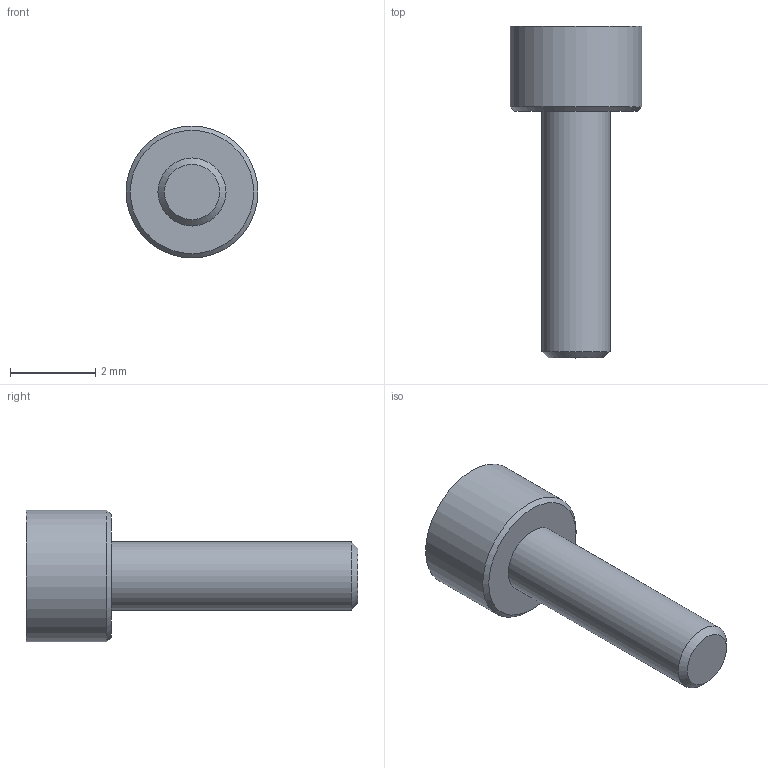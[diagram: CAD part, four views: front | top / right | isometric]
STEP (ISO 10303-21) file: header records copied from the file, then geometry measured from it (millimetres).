
FILE_DESCRIPTION (( 'STEP AP214' ), '1' );
FILE_NAME ('SK-6.STEP', '2018-10-09T18:04:27', ( '' ), ( '' ), 'SwSTEP 2.0', 'SolidWorks 2017', '' );
FILE_SCHEMA (( 'AUTOMOTIVE_DESIGN' ));
Length unit declared in the file: millimetre
Products named in the file (1): SK-6
Bounding box: 3.1 x 7.8 x 3.1 mm (x, y, z)
Volume: 26.3 mm3; surface area: 64.6 mm2
Topology: 1 solids, 1 shells, 20 faces, 48 edges, 32 vertices
Faces by surface type: plane 11, cylinder 7, cone 2
Full cylindrical faces by diameter (mm): 1.6 x1, 3.1 x1
Entity records: 574 total; most frequent: CARTESIAN_POINT 123, ORIENTED_EDGE 84, DIRECTION 80, EDGE_CURVE 42, VERTEX_POINT 30, AXIS2_PLACEMENT_3D 27, LINE 26, EDGE_LOOP 26
